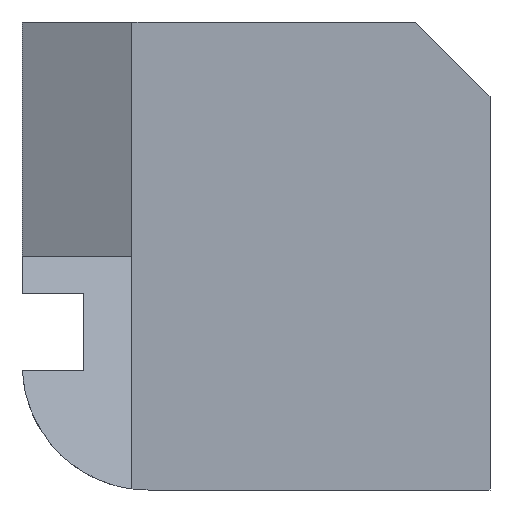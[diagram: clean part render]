
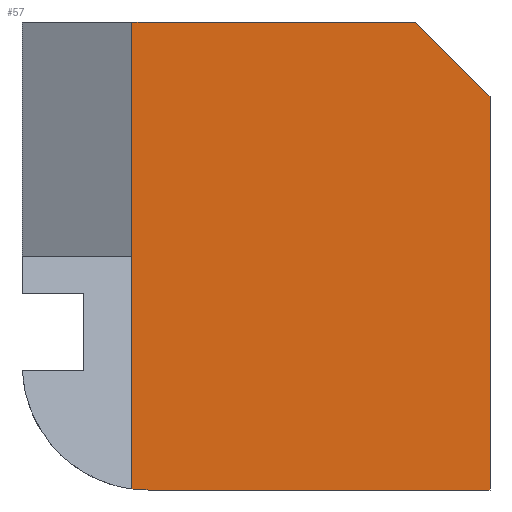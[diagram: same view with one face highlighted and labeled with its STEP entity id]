
A CAD part, front view. The second image highlights one B-rep face of the part: STEP entity #57.
In plain terms, the highlighted planar face has unit normal (0, -1, 0).
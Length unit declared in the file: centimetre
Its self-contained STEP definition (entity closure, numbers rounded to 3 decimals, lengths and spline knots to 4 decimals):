
#5 = EDGE_CURVE ( 'NONE', #506, #280, #333, .T. ) ;
#10 = CARTESIAN_POINT ( 'NONE',  ( 0., 0., 1000. ) ) ;
#14 = CARTESIAN_POINT ( 'NONE',  ( 1000., 0., 1000. ) ) ;
#21 = PLANE ( 'NONE',  #467 ) ;
#25 = CARTESIAN_POINT ( 'NONE',  ( 235.0229, 0., 0. ) ) ;
#46 = EDGE_CURVE ( 'NONE', #280, #349, #791, .T. ) ;
#57 = ADVANCED_FACE ( 'NONE', ( #797 ), #21, .F. ) ;
#69 = DIRECTION ( 'NONE',  ( 0., 0., 1. ) ) ;
#93 = CARTESIAN_POINT ( 'NONE',  ( 235.0229, 0., 1000. ) ) ;
#96 = EDGE_LOOP ( 'NONE', ( #434, #163, #227, #406, #522, #737 ) ) ;
#101 = EDGE_CURVE ( 'NONE', #820, #675, #258, .T. ) ;
#119 = CARTESIAN_POINT ( 'NONE',  ( 1000., 0., 0. ) ) ;
#124 = LINE ( 'NONE', #583, #516 ) ;
#129 = VECTOR ( 'NONE', #316, 100. ) ;
#163 = ORIENTED_EDGE ( 'NONE', *, *, #254, .T. ) ;
#204 = DIRECTION ( 'NONE',  ( 1., 0., 0. ) ) ;
#227 = ORIENTED_EDGE ( 'NONE', *, *, #440, .T. ) ;
#235 = CARTESIAN_POINT ( 'NONE',  ( 269.4858, 0., 269.4858 ) ) ;
#254 = EDGE_CURVE ( 'NONE', #506, #502, #661, .T. ) ;
#258 = LINE ( 'NONE', #14, #386 ) ;
#269 = DIRECTION ( 'NONE',  ( 0., 1., 0. ) ) ;
#280 = VERTEX_POINT ( 'NONE', #93 ) ;
#296 = VECTOR ( 'NONE', #204, 100. ) ;
#316 = DIRECTION ( 'NONE',  ( -0.707, 0., 0.707 ) ) ;
#333 = LINE ( 'NONE', #25, #524 ) ;
#349 = VERTEX_POINT ( 'NONE', #754 ) ;
#374 = CARTESIAN_POINT ( 'NONE',  ( 269.4858, 0., 0. ) ) ;
#386 = VECTOR ( 'NONE', #472, 100. ) ;
#406 = ORIENTED_EDGE ( 'NONE', *, *, #101, .F. ) ;
#428 = EDGE_CURVE ( 'NONE', #820, #349, #453, .T. ) ;
#434 = ORIENTED_EDGE ( 'NONE', *, *, #5, .F. ) ;
#440 = EDGE_CURVE ( 'NONE', #502, #675, #124, .T. ) ;
#453 = LINE ( 'NONE', #713, #129 ) ;
#467 = AXIS2_PLACEMENT_3D ( 'NONE', #730, #269, #69 ) ;
#472 = DIRECTION ( 'NONE',  ( 0., 0., -1. ) ) ;
#492 = DIRECTION ( 'NONE',  ( 0., -1., 0. ) ) ;
#502 = VERTEX_POINT ( 'NONE', #374 ) ;
#506 = VERTEX_POINT ( 'NONE', #643 ) ;
#513 = DIRECTION ( 'NONE',  ( 1., 0., 0. ) ) ;
#516 = VECTOR ( 'NONE', #513, 100. ) ;
#522 = ORIENTED_EDGE ( 'NONE', *, *, #428, .T. ) ;
#524 = VECTOR ( 'NONE', #665, 100. ) ;
#583 = CARTESIAN_POINT ( 'NONE',  ( 0., 0., 0. ) ) ;
#632 = DIRECTION ( 'NONE',  ( 0., 0., 1. ) ) ;
#643 = CARTESIAN_POINT ( 'NONE',  ( 235.0229, 0., 2.2127 ) ) ;
#661 = CIRCLE ( 'NONE', #814, 269.4858 ) ;
#665 = DIRECTION ( 'NONE',  ( 0., 0., 1. ) ) ;
#675 = VERTEX_POINT ( 'NONE', #119 ) ;
#713 = CARTESIAN_POINT ( 'NONE',  ( 840.8113, 0., 1000. ) ) ;
#730 = CARTESIAN_POINT ( 'NONE',  ( 0., 0., 1000. ) ) ;
#737 = ORIENTED_EDGE ( 'NONE', *, *, #46, .F. ) ;
#754 = CARTESIAN_POINT ( 'NONE',  ( 840.8113, 0., 1000. ) ) ;
#791 = LINE ( 'NONE', #10, #296 ) ;
#797 = FACE_OUTER_BOUND ( 'NONE', #96, .T. ) ;
#801 = CARTESIAN_POINT ( 'NONE',  ( 1000., 0., 840.8113 ) ) ;
#814 = AXIS2_PLACEMENT_3D ( 'NONE', #235, #492, #632 ) ;
#820 = VERTEX_POINT ( 'NONE', #801 ) ;
